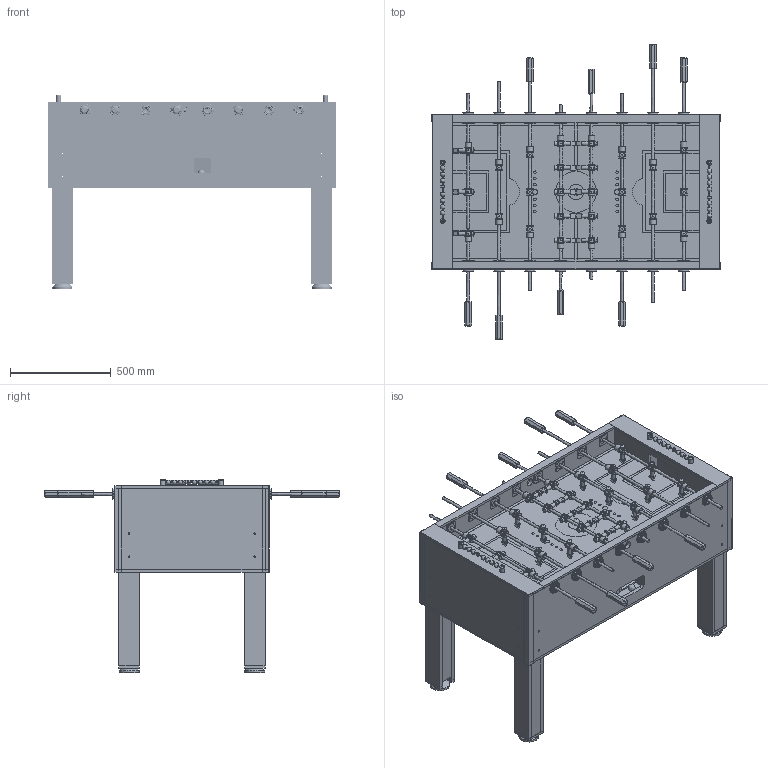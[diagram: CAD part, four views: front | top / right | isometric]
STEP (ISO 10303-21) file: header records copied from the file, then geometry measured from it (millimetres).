
FILE_DESCRIPTION ((), '1');
FILE_NAME ('/Volumes/Data/Drawings/Moi3D/Moi3D Models/foosball table/foosball table 20220105-03.stp', '2022-01-05T12:50:01', ('Unknown'), ('Unknown'), 'HarmonyWare STEP v2.1.4', 'HarmonyWare Translators', '');
FILE_SCHEMA (('CONFIG_CONTROL_DESIGN'));
Length unit declared in the file: inch
Products named in the file (292): playing field layout 0.01in inlay; cabinet base for playing field; playing field end; end blocks; playing field side; cabinet top trim; cabinet corner edge strips; rod guide; cabinet bottom edge strip; leg + leveler; cabinet end; cabinet sides; ball capture; L-bracket aluminum 1/8x1x2 inches; ball return center section; rod-men-handles-bumpers; ball return ramp black goalie; ball return ramp red goalie; ball; score keeper; playfield edge strip 0.5mm x 15mm
Assembly tree (291 placements, depth 2):
  (unnamed)
    playing field layout 0.01in inlay
    playing field layout 0.01in inlay
    playing field layout 0.01in inlay
    playing field layout 0.01in inlay
    playing field layout 0.01in inlay
    playing field layout 0.01in inlay
    playing field layout 0.01in inlay
    playing field layout 0.01in inlay
    playing field layout 0.01in inlay
    playing field layout 0.01in inlay
    playing field layout 0.01in inlay
    playing field layout 0.01in inlay
    playing field layout 0.01in inlay
    playing field layout 0.01in inlay
    playing field layout 0.01in inlay
    playing field layout 0.01in inlay
    playing field layout 0.01in inlay
    playing field layout 0.01in inlay
    playing field layout 0.01in inlay
    playing field layout 0.01in inlay
    playing field layout 0.01in inlay
    playing field layout 0.01in inlay
    cabinet base for playing field
    playing field end
    end blocks
    end blocks
    end blocks
    end blocks
    playing field end
    end blocks
    end blocks
    end blocks
    end blocks
    playing field side
    playing field side
    cabinet top trim
    cabinet top trim
    cabinet top trim
    cabinet top trim
    cabinet corner edge strips
    cabinet corner edge strips
    cabinet corner edge strips
    cabinet corner edge strips
    cabinet corner edge strips
    cabinet corner edge strips
    cabinet corner edge strips
    cabinet corner edge strips
    rod guide
    rod guide
    rod guide
    rod guide
    rod guide
    rod guide
    rod guide
    rod guide
    rod guide
    rod guide
    rod guide
    rod guide
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Bounding box: 1427.16 x 1460.18 x 958.85 mm (x, y, z)
Volume: 102839948.4 mm3; surface area: 15612041.5 mm2
Topology: 291 solids, 291 shells, 3914 faces, 9083 edges, 5772 vertices
Faces by surface type: bspline 3914
Entity records: 312673 total; most frequent: CARTESIAN_POINT 215380, ORIENTED_EDGE 18156, EDGE_CURVE 9078, B_SPLINE_CURVE_WITH_KNOTS 6725, VERTEX_POINT 5771, EDGE_LOOP 4527, FACE_OUTER_BOUND 3914, ADVANCED_FACE 3914
